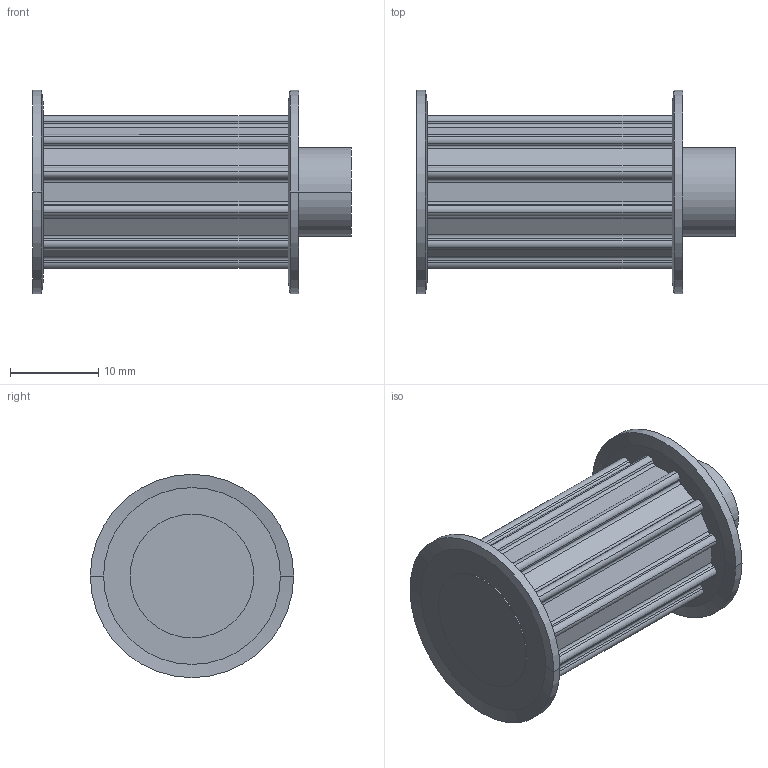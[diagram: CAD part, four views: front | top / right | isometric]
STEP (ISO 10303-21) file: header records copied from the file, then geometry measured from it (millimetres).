
FILE_DESCRIPTION( ( '' ), '1' );
FILE_NAME( 'C:/Users/Stangenbergd/Documents/CAD_Step/1/16641200.stp', '2021-10-19T09:37:34', ( '' ), ( '' ), ' ', ' ', ' ' );
FILE_SCHEMA( ( 'CONFIG_CONTROL_DESIGN' ) );
Length unit declared in the file: millimetre
Products named in the file (1): 1
Bounding box: 36.06 x 23 x 23 mm (x, y, z)
Volume: 7173.8 mm3; surface area: 3379.8 mm2
Topology: 1 solids, 1 shells, 109 faces, 307 edges, 205 vertices
Faces by surface type: cylinder 58, plane 43, cone 8
Entity records: 3626 total; most frequent: DIRECTION 660, CARTESIAN_POINT 622, ORIENTED_EDGE 614, EDGE_CURVE 307, AXIS2_PLACEMENT_3D 243, VERTEX_POINT 205, LINE 174, VECTOR 174
